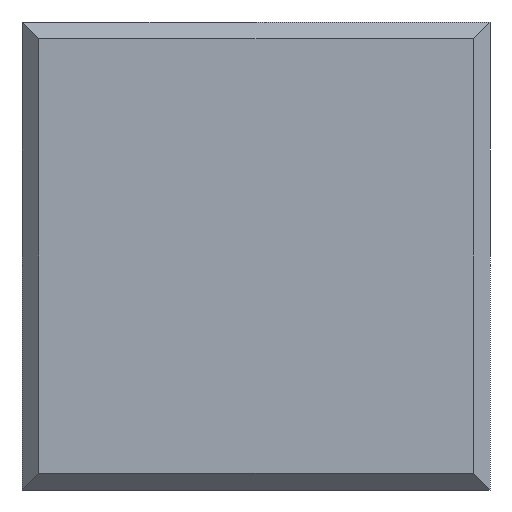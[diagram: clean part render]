
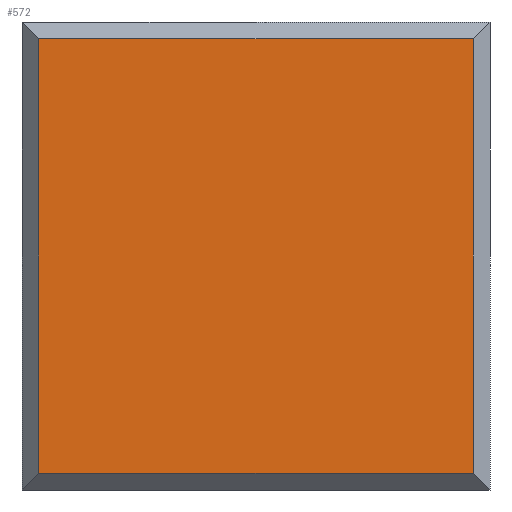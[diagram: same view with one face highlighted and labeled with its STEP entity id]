
A CAD part, front view. The second image highlights one B-rep face of the part: STEP entity #572.
In plain terms, the highlighted planar face has unit normal (0, -1, 0).
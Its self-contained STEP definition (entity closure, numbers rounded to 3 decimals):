
#2 = CARTESIAN_POINT ( 'NONE',  ( 13., -10., 13. ) ) ;
#26 = CARTESIAN_POINT ( 'NONE',  ( -13., -10., -13. ) ) ;
#32 = LINE ( 'NONE', #366, #230 ) ;
#37 = ORIENTED_EDGE ( 'NONE', *, *, #819, .F. ) ;
#44 = EDGE_CURVE ( 'NONE', #929, #343, #32, .T. ) ;
#153 = VERTEX_POINT ( 'NONE', #26 ) ;
#194 = CARTESIAN_POINT ( 'NONE',  ( -13., -10., 13. ) ) ;
#230 = VECTOR ( 'NONE', #930, 1000. ) ;
#241 = VECTOR ( 'NONE', #284, 1000. ) ;
#280 = FACE_OUTER_BOUND ( 'NONE', #636, .T. ) ;
#284 = DIRECTION ( 'NONE',  ( -1., 0., 0. ) ) ;
#288 = CARTESIAN_POINT ( 'NONE',  ( 14., -10., -13. ) ) ;
#292 = VECTOR ( 'NONE', #299, 1000. ) ;
#299 = DIRECTION ( 'NONE',  ( 0., 0., -1. ) ) ;
#303 = VECTOR ( 'NONE', #632, 1000. ) ;
#343 = VERTEX_POINT ( 'NONE', #645 ) ;
#366 = CARTESIAN_POINT ( 'NONE',  ( 13., -10., 14. ) ) ;
#418 = VERTEX_POINT ( 'NONE', #601 ) ;
#445 = LINE ( 'NONE', #194, #292 ) ;
#473 = EDGE_CURVE ( 'NONE', #418, #153, #445, .T. ) ;
#477 = LINE ( 'NONE', #679, #303 ) ;
#503 = ORIENTED_EDGE ( 'NONE', *, *, #473, .T. ) ;
#569 = LINE ( 'NONE', #288, #241 ) ;
#572 = ADVANCED_FACE ( 'NONE', ( #280 ), #797, .T. ) ;
#601 = CARTESIAN_POINT ( 'NONE',  ( -13., -10., 13. ) ) ;
#616 = ORIENTED_EDGE ( 'NONE', *, *, #44, .F. ) ;
#632 = DIRECTION ( 'NONE',  ( 1., 0., 0. ) ) ;
#636 = EDGE_LOOP ( 'NONE', ( #832, #503, #37, #616 ) ) ;
#645 = CARTESIAN_POINT ( 'NONE',  ( 13., -10., -13. ) ) ;
#679 = CARTESIAN_POINT ( 'NONE',  ( 14., -10., 13. ) ) ;
#697 = EDGE_CURVE ( 'NONE', #418, #929, #477, .T. ) ;
#787 = DIRECTION ( 'NONE',  ( -1., 0., 0. ) ) ;
#790 = DIRECTION ( 'NONE',  ( 0., -1., 0. ) ) ;
#797 = PLANE ( 'NONE',  #884 ) ;
#819 = EDGE_CURVE ( 'NONE', #343, #153, #569, .T. ) ;
#832 = ORIENTED_EDGE ( 'NONE', *, *, #697, .F. ) ;
#850 = CARTESIAN_POINT ( 'NONE',  ( 13., -10., 13. ) ) ;
#884 = AXIS2_PLACEMENT_3D ( 'NONE', #850, #790, #787 ) ;
#929 = VERTEX_POINT ( 'NONE', #2 ) ;
#930 = DIRECTION ( 'NONE',  ( 0., 0., -1. ) ) ;
